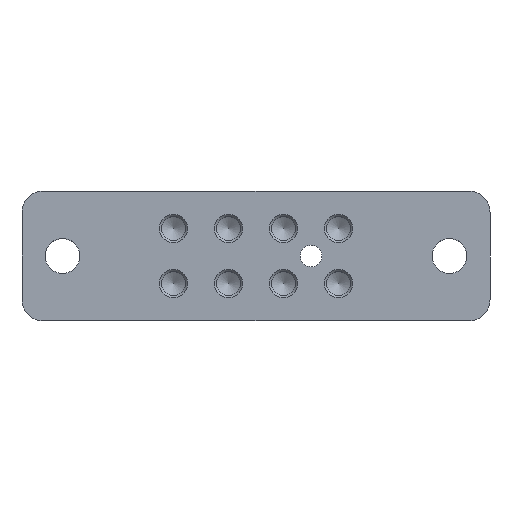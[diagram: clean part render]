
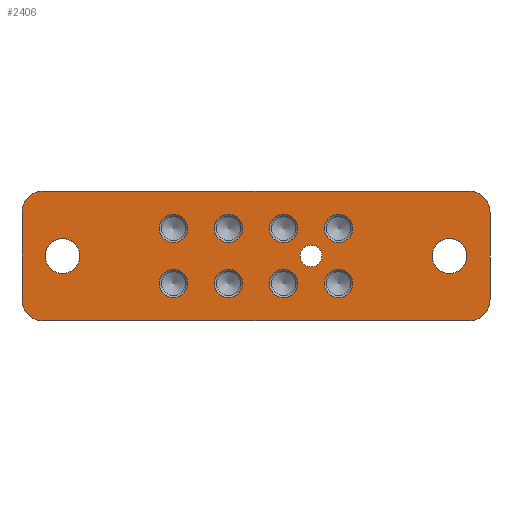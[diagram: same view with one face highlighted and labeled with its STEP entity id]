
A CAD part, top view. The second image highlights one B-rep face of the part: STEP entity #2406.
In plain terms, the highlighted planar face has unit normal (0, 0, 1).
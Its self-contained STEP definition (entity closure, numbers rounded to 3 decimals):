
#168=LINE($,#4191,#315);
#173=LINE($,#4204,#320);
#177=LINE($,#4216,#324);
#181=LINE($,#4228,#328);
#315=VECTOR($,#3303,8.);
#320=VECTOR($,#3316,39.2);
#324=VECTOR($,#3328,8.);
#328=VECTOR($,#3340,39.2);
#453=PLANE($,#2673);
#563=FACE_BOUND($,#923,.T.);
#564=FACE_BOUND($,#924,.T.);
#565=FACE_BOUND($,#925,.T.);
#566=FACE_BOUND($,#926,.T.);
#567=FACE_BOUND($,#927,.T.);
#568=FACE_BOUND($,#928,.T.);
#569=FACE_BOUND($,#929,.T.);
#570=FACE_BOUND($,#930,.T.);
#571=FACE_BOUND($,#931,.T.);
#572=FACE_BOUND($,#932,.T.);
#573=FACE_BOUND($,#933,.T.);
#574=FACE_BOUND($,#934,.T.);
#923=EDGE_LOOP($,(#2063));
#924=EDGE_LOOP($,(#2064));
#925=EDGE_LOOP($,(#2065));
#926=EDGE_LOOP($,(#2066));
#927=EDGE_LOOP($,(#2067));
#928=EDGE_LOOP($,(#2068));
#929=EDGE_LOOP($,(#2069));
#930=EDGE_LOOP($,(#2070));
#931=EDGE_LOOP($,(#2071));
#932=EDGE_LOOP($,(#2072));
#933=EDGE_LOOP($,(#2073));
#934=EDGE_LOOP($,(#2074,#2075,#2076,#2077,#2078,#2079,#2080,#2081));
#936=CIRCLE($,#2413,1.3);
#943=CIRCLE($,#2436,1.3);
#950=CIRCLE($,#2459,1.3);
#957=CIRCLE($,#2482,1.3);
#964=CIRCLE($,#2505,1.3);
#971=CIRCLE($,#2528,1.3);
#978=CIRCLE($,#2551,1.3);
#985=CIRCLE($,#2574,1.3);
#996=CIRCLE($,#2638,1.6);
#998=CIRCLE($,#2641,1.6);
#1000=CIRCLE($,#2655,1.);
#1002=CIRCLE($,#2659,2.);
#1004=CIRCLE($,#2663,2.);
#1006=CIRCLE($,#2667,2.);
#1008=CIRCLE($,#2671,2.);
#1010=VERTEX_POINT($,#3356);
#1025=VERTEX_POINT($,#3402);
#1040=VERTEX_POINT($,#3448);
#1055=VERTEX_POINT($,#3494);
#1070=VERTEX_POINT($,#3540);
#1085=VERTEX_POINT($,#3586);
#1100=VERTEX_POINT($,#3632);
#1115=VERTEX_POINT($,#3678);
#1178=VERTEX_POINT($,#4089);
#1180=VERTEX_POINT($,#4094);
#1204=VERTEX_POINT($,#4182);
#1207=VERTEX_POINT($,#4188);
#1208=VERTEX_POINT($,#4190);
#1210=VERTEX_POINT($,#4196);
#1212=VERTEX_POINT($,#4202);
#1214=VERTEX_POINT($,#4208);
#1216=VERTEX_POINT($,#4214);
#1218=VERTEX_POINT($,#4220);
#1220=VERTEX_POINT($,#4226);
#1222=EDGE_CURVE($,#1010,#1010,#936,.T.);
#1241=EDGE_CURVE($,#1025,#1025,#943,.T.);
#1260=EDGE_CURVE($,#1040,#1040,#950,.T.);
#1279=EDGE_CURVE($,#1055,#1055,#957,.T.);
#1298=EDGE_CURVE($,#1070,#1070,#964,.T.);
#1317=EDGE_CURVE($,#1085,#1085,#971,.T.);
#1336=EDGE_CURVE($,#1100,#1100,#978,.T.);
#1355=EDGE_CURVE($,#1115,#1115,#985,.T.);
#1446=EDGE_CURVE($,#1178,#1178,#996,.T.);
#1448=EDGE_CURVE($,#1180,#1180,#998,.T.);
#1483=EDGE_CURVE($,#1204,#1204,#1000,.T.);
#1486=EDGE_CURVE($,#1208,#1207,#168,.T.);
#1490=EDGE_CURVE($,#1207,#1210,#1002,.T.);
#1493=EDGE_CURVE($,#1210,#1212,#173,.T.);
#1496=EDGE_CURVE($,#1212,#1214,#1004,.T.);
#1499=EDGE_CURVE($,#1214,#1216,#177,.T.);
#1502=EDGE_CURVE($,#1216,#1218,#1006,.T.);
#1505=EDGE_CURVE($,#1218,#1220,#181,.T.);
#1507=EDGE_CURVE($,#1220,#1208,#1008,.T.);
#2063=ORIENTED_EDGE($,*,*,#1222,.T.);
#2064=ORIENTED_EDGE($,*,*,#1241,.T.);
#2065=ORIENTED_EDGE($,*,*,#1260,.T.);
#2066=ORIENTED_EDGE($,*,*,#1279,.T.);
#2067=ORIENTED_EDGE($,*,*,#1298,.T.);
#2068=ORIENTED_EDGE($,*,*,#1317,.T.);
#2069=ORIENTED_EDGE($,*,*,#1336,.T.);
#2070=ORIENTED_EDGE($,*,*,#1355,.T.);
#2071=ORIENTED_EDGE($,*,*,#1446,.T.);
#2072=ORIENTED_EDGE($,*,*,#1448,.T.);
#2073=ORIENTED_EDGE($,*,*,#1483,.T.);
#2074=ORIENTED_EDGE($,*,*,#1486,.T.);
#2075=ORIENTED_EDGE($,*,*,#1490,.T.);
#2076=ORIENTED_EDGE($,*,*,#1493,.T.);
#2077=ORIENTED_EDGE($,*,*,#1496,.T.);
#2078=ORIENTED_EDGE($,*,*,#1499,.T.);
#2079=ORIENTED_EDGE($,*,*,#1502,.T.);
#2080=ORIENTED_EDGE($,*,*,#1505,.T.);
#2081=ORIENTED_EDGE($,*,*,#1507,.T.);
#2406=ADVANCED_FACE($,(#563,#564,#565,#566,#567,#568,#569,#570,#571,#572,
#573,#574),#453,.T.);
#2413=AXIS2_PLACEMENT_3D($,#3357,#2682,#2683);
#2436=AXIS2_PLACEMENT_3D($,#3403,#2736,#2737);
#2459=AXIS2_PLACEMENT_3D($,#3449,#2790,#2791);
#2482=AXIS2_PLACEMENT_3D($,#3495,#2844,#2845);
#2505=AXIS2_PLACEMENT_3D($,#3541,#2898,#2899);
#2528=AXIS2_PLACEMENT_3D($,#3587,#2952,#2953);
#2551=AXIS2_PLACEMENT_3D($,#3633,#3006,#3007);
#2574=AXIS2_PLACEMENT_3D($,#3679,#3060,#3061);
#2638=AXIS2_PLACEMENT_3D($,#4090,#3232,#3233);
#2641=AXIS2_PLACEMENT_3D($,#4095,#3238,#3239);
#2655=AXIS2_PLACEMENT_3D($,#4183,#3297,#3298);
#2659=AXIS2_PLACEMENT_3D($,#4198,#3310,#3311);
#2663=AXIS2_PLACEMENT_3D($,#4210,#3322,#3323);
#2667=AXIS2_PLACEMENT_3D($,#4222,#3334,#3335);
#2671=AXIS2_PLACEMENT_3D($,#4231,#3345,#3346);
#2673=AXIS2_PLACEMENT_3D($,#4233,#3349,#3350);
#2682=DIRECTION('center_axis',(0.,0.,-1.));
#2683=DIRECTION('ref_axis',(0.,1.,0.));
#2736=DIRECTION('center_axis',(0.,0.,-1.));
#2737=DIRECTION('ref_axis',(0.,1.,0.));
#2790=DIRECTION('center_axis',(0.,0.,-1.));
#2791=DIRECTION('ref_axis',(0.,1.,0.));
#2844=DIRECTION('center_axis',(0.,0.,-1.));
#2845=DIRECTION('ref_axis',(0.,1.,0.));
#2898=DIRECTION('center_axis',(0.,0.,-1.));
#2899=DIRECTION('ref_axis',(0.,1.,0.));
#2952=DIRECTION('center_axis',(0.,0.,-1.));
#2953=DIRECTION('ref_axis',(0.,-1.,0.));
#3006=DIRECTION('center_axis',(0.,0.,-1.));
#3007=DIRECTION('ref_axis',(0.,1.,0.));
#3060=DIRECTION('center_axis',(0.,0.,-1.));
#3061=DIRECTION('ref_axis',(0.,1.,0.));
#3232=DIRECTION('center_axis',(0.,0.,-1.));
#3233=DIRECTION('ref_axis',(-1.,0.,0.));
#3238=DIRECTION('center_axis',(0.,0.,-1.));
#3239=DIRECTION('ref_axis',(-1.,0.,0.));
#3297=DIRECTION('center_axis',(0.,0.,-1.));
#3298=DIRECTION('ref_axis',(-1.,0.,0.));
#3303=DIRECTION($,(0.,-1.,0.));
#3310=DIRECTION('center_axis',(0.,0.,1.));
#3311=DIRECTION('ref_axis',(-1.,0.,0.));
#3316=DIRECTION($,(1.,0.,0.));
#3322=DIRECTION('center_axis',(0.,0.,1.));
#3323=DIRECTION('ref_axis',(0.,-1.,0.));
#3328=DIRECTION($,(0.,1.,0.));
#3334=DIRECTION('center_axis',(0.,0.,1.));
#3335=DIRECTION('ref_axis',(1.,0.,0.));
#3340=DIRECTION($,(-1.,0.,0.));
#3345=DIRECTION('center_axis',(0.,0.,1.));
#3346=DIRECTION('ref_axis',(0.,1.,0.));
#3349=DIRECTION('center_axis',(0.,0.,1.));
#3350=DIRECTION('ref_axis',(1.,0.,0.));
#3356=CARTESIAN_POINT('',(7.62,3.84,0.));
#3357=CARTESIAN_POINT('Origin',(7.62,2.54,0.));
#3402=CARTESIAN_POINT('',(7.62,-1.24,0.));
#3403=CARTESIAN_POINT('Origin',(7.62,-2.54,0.));
#3448=CARTESIAN_POINT('',(-2.54,-1.24,0.));
#3449=CARTESIAN_POINT('Origin',(-2.54,-2.54,0.));
#3494=CARTESIAN_POINT('',(2.54,3.84,0.));
#3495=CARTESIAN_POINT('Origin',(2.54,2.54,0.));
#3540=CARTESIAN_POINT('',(2.54,-1.24,0.));
#3541=CARTESIAN_POINT('Origin',(2.54,-2.54,0.));
#3586=CARTESIAN_POINT('',(-7.62,1.24,0.));
#3587=CARTESIAN_POINT('Origin',(-7.62,2.54,0.));
#3632=CARTESIAN_POINT('',(-7.62,-1.24,0.));
#3633=CARTESIAN_POINT('Origin',(-7.62,-2.54,0.));
#3678=CARTESIAN_POINT('',(-2.54,3.84,0.));
#3679=CARTESIAN_POINT('Origin',(-2.54,2.54,0.));
#4089=CARTESIAN_POINT('',(19.45,0.,0.));
#4090=CARTESIAN_POINT('Origin',(17.85,0.,0.));
#4094=CARTESIAN_POINT('',(-16.26,0.,0.));
#4095=CARTESIAN_POINT('Origin',(-17.86,0.,0.));
#4182=CARTESIAN_POINT('',(6.08,0.,0.));
#4183=CARTESIAN_POINT('Origin',(5.08,0.,0.));
#4188=CARTESIAN_POINT('',(-21.6,-4.,0.));
#4190=CARTESIAN_POINT('',(-21.6,4.,0.));
#4191=CARTESIAN_POINT($,(-21.6,4.,0.));
#4196=CARTESIAN_POINT('',(-19.6,-6.,0.));
#4198=CARTESIAN_POINT('Origin',(-19.6,-4.,0.));
#4202=CARTESIAN_POINT('',(19.6,-6.,0.));
#4204=CARTESIAN_POINT($,(-19.6,-6.,0.));
#4208=CARTESIAN_POINT('',(21.6,-4.,0.));
#4210=CARTESIAN_POINT('Origin',(19.6,-4.,0.));
#4214=CARTESIAN_POINT('',(21.6,4.,0.));
#4216=CARTESIAN_POINT($,(21.6,-4.,0.));
#4220=CARTESIAN_POINT('',(19.6,6.,0.));
#4222=CARTESIAN_POINT('Origin',(19.6,4.,0.));
#4226=CARTESIAN_POINT('',(-19.6,6.,0.));
#4228=CARTESIAN_POINT($,(19.6,6.,0.));
#4231=CARTESIAN_POINT('Origin',(-19.6,4.,0.));
#4233=CARTESIAN_POINT('Origin',(0.,0.,
0.));
